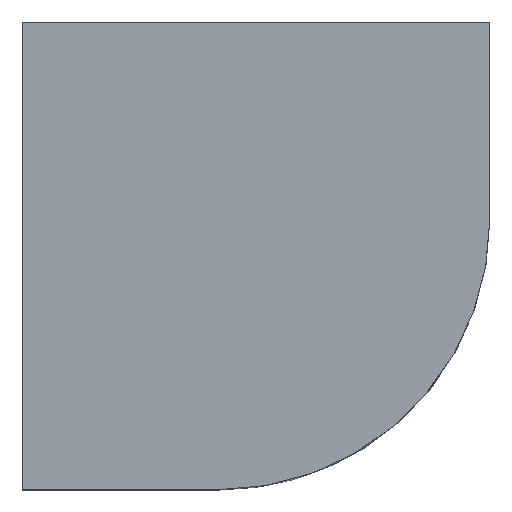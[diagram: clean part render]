
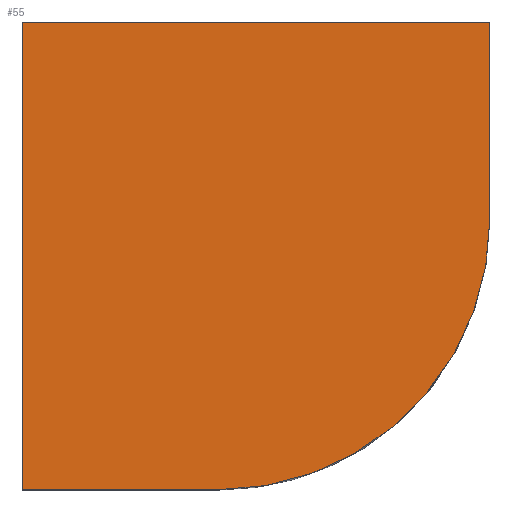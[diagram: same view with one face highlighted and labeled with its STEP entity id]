
A CAD part, top view. The second image highlights one B-rep face of the part: STEP entity #55.
In plain terms, the highlighted planar face has unit normal (0, 0, 1).
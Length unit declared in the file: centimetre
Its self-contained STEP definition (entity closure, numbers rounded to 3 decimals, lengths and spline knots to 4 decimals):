
#18 = CARTESIAN_POINT ( 'NONE',  ( 421.874, 0., 1000. ) ) ;
#23 = CARTESIAN_POINT ( 'NONE',  ( 1000., 578.126, 1000. ) ) ;
#28 = VECTOR ( 'NONE', #253, 100. ) ;
#46 = ORIENTED_EDGE ( 'NONE', *, *, #287, .T. ) ;
#55 = ADVANCED_FACE ( 'NONE', ( #60 ), #127, .T. ) ;
#58 = VERTEX_POINT ( 'NONE', #207 ) ;
#60 = FACE_OUTER_BOUND ( 'NONE', #109, .T. ) ;
#67 = DIRECTION ( 'NONE',  ( 0., 0., 1. ) ) ;
#68 = DIRECTION ( 'NONE',  ( 1., 0., 0. ) ) ;
#69 = ORIENTED_EDGE ( 'NONE', *, *, #299, .T. ) ;
#70 = VECTOR ( 'NONE', #68, 100. ) ;
#82 = VECTOR ( 'NONE', #315, 100. ) ;
#91 = LINE ( 'NONE', #165, #70 ) ;
#96 = CARTESIAN_POINT ( 'NONE',  ( 0., 0., 1000. ) ) ;
#97 = ORIENTED_EDGE ( 'NONE', *, *, #124, .T. ) ;
#101 = CARTESIAN_POINT ( 'NONE',  ( 0., 0., 1000. ) ) ;
#109 = EDGE_LOOP ( 'NONE', ( #179, #46, #323, #97, #69 ) ) ;
#121 = CARTESIAN_POINT ( 'NONE',  ( 0., 1000., 1000. ) ) ;
#124 = EDGE_CURVE ( 'NONE', #58, #248, #206, .T. ) ;
#126 = VERTEX_POINT ( 'NONE', #18 ) ;
#127 = PLANE ( 'NONE',  #167 ) ;
#129 = CARTESIAN_POINT ( 'NONE',  ( 1000., 1000., 1000. ) ) ;
#137 = EDGE_CURVE ( 'NONE', #154, #58, #280, .T. ) ;
#154 = VERTEX_POINT ( 'NONE', #23 ) ;
#165 = CARTESIAN_POINT ( 'NONE',  ( 0., 0., 1000. ) ) ;
#167 = AXIS2_PLACEMENT_3D ( 'NONE', #101, #301, #257 ) ;
#179 = ORIENTED_EDGE ( 'NONE', *, *, #302, .T. ) ;
#180 = VERTEX_POINT ( 'NONE', #96 ) ;
#193 = CARTESIAN_POINT ( 'NONE',  ( 0., 1000., 1000. ) ) ;
#195 = CARTESIAN_POINT ( 'NONE',  ( 421.874, 578.126, 1000. ) ) ;
#206 = LINE ( 'NONE', #304, #333 ) ;
#207 = CARTESIAN_POINT ( 'NONE',  ( 1000., 1000., 1000. ) ) ;
#216 = DIRECTION ( 'NONE',  ( 1., 0., 0. ) ) ;
#248 = VERTEX_POINT ( 'NONE', #193 ) ;
#253 = DIRECTION ( 'NONE',  ( 0., 1., 0. ) ) ;
#257 = DIRECTION ( 'NONE',  ( 1., 0., 0. ) ) ;
#280 = LINE ( 'NONE', #129, #28 ) ;
#281 = DIRECTION ( 'NONE',  ( -1., 0., 0. ) ) ;
#287 = EDGE_CURVE ( 'NONE', #126, #154, #303, .T. ) ;
#296 = AXIS2_PLACEMENT_3D ( 'NONE', #195, #67, #216 ) ;
#299 = EDGE_CURVE ( 'NONE', #248, #180, #317, .T. ) ;
#301 = DIRECTION ( 'NONE',  ( 0., 0., 1. ) ) ;
#302 = EDGE_CURVE ( 'NONE', #180, #126, #91, .T. ) ;
#303 = CIRCLE ( 'NONE', #296, 578.126 ) ;
#304 = CARTESIAN_POINT ( 'NONE',  ( 0., 1000., 1000. ) ) ;
#315 = DIRECTION ( 'NONE',  ( 0., -1., 0. ) ) ;
#317 = LINE ( 'NONE', #121, #82 ) ;
#323 = ORIENTED_EDGE ( 'NONE', *, *, #137, .T. ) ;
#333 = VECTOR ( 'NONE', #281, 100. ) ;
